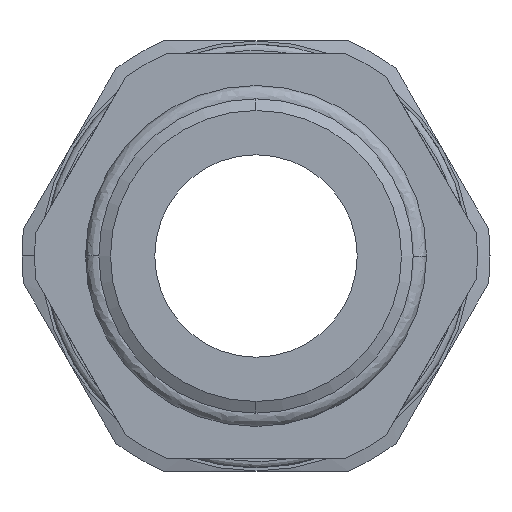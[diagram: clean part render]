
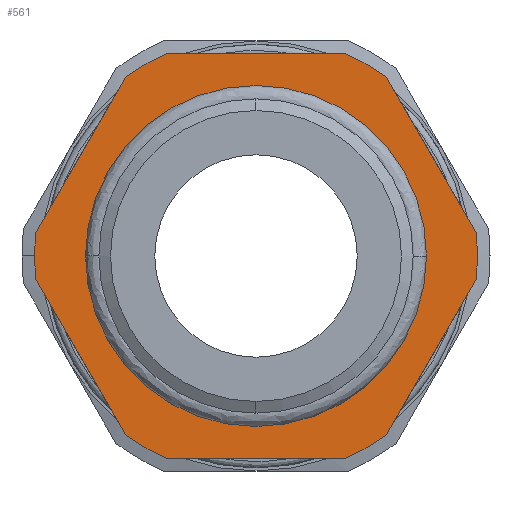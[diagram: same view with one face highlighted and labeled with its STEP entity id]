
A CAD part, front view. The second image highlights one B-rep face of the part: STEP entity #561.
In plain terms, the highlighted planar face has unit normal (0, -1, 0).
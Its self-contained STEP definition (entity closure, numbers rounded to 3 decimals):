
#49 = CARTESIAN_POINT ( 'NONE',  ( 0., 13.499, 0. ) ) ;
#54 = CARTESIAN_POINT ( 'NONE',  ( 13.48, 13.499, -0.004 ) ) ;
#113 = DIRECTION ( 'NONE',  ( -0.5, 0., -0.866 ) ) ;
#138 = VERTEX_POINT ( 'NONE', #2285 ) ;
#140 = FACE_OUTER_BOUND ( 'NONE', #3000, .T. ) ;
#176 = LINE ( 'NONE', #1535, #2300 ) ;
#185 = VERTEX_POINT ( 'NONE', #873 ) ;
#321 = CARTESIAN_POINT ( 'NONE',  ( 0., 13.499, 0. ) ) ;
#340 = DIRECTION ( 'NONE',  ( 0., 0., -1. ) ) ;
#349 = VECTOR ( 'NONE', #1999, 1000. ) ;
#391 = VERTEX_POINT ( 'NONE', #3594 ) ;
#521 = EDGE_CURVE ( 'NONE', #2996, #1112, #662, .T. ) ;
#561 = ADVANCED_FACE ( 'NONE', ( #934, #140 ), #2350, .T. ) ;
#567 = AXIS2_PLACEMENT_3D ( 'NONE', #2160, #2140, #4036 ) ;
#662 = LINE ( 'NONE', #1016, #349 ) ;
#696 = CARTESIAN_POINT ( 'NONE',  ( 0., 13.499, 0. ) ) ;
#706 = DIRECTION ( 'NONE',  ( 0., 0., -1. ) ) ;
#763 = ORIENTED_EDGE ( 'NONE', *, *, #3750, .T. ) ;
#852 = AXIS2_PLACEMENT_3D ( 'NONE', #4145, #4113, #4060 ) ;
#873 = CARTESIAN_POINT ( 'NONE',  ( -10.312, 13.499, 14.139 ) ) ;
#882 = LINE ( 'NONE', #2479, #1900 ) ;
#908 = VERTEX_POINT ( 'NONE', #1371 ) ;
#914 = VERTEX_POINT ( 'NONE', #2348 ) ;
#934 = FACE_BOUND ( 'NONE', #2758, .T. ) ;
#939 = DIRECTION ( 'NONE',  ( 0., -1., 0. ) ) ;
#952 = DIRECTION ( 'NONE',  ( 0., -1., 0. ) ) ;
#983 = CIRCLE ( 'NONE', #567, 13.48 ) ;
#992 = VERTEX_POINT ( 'NONE', #1346 ) ;
#1002 = ORIENTED_EDGE ( 'NONE', *, *, #3509, .T. ) ;
#1016 = CARTESIAN_POINT ( 'NONE',  ( 14.5, 13.499, 16. ) ) ;
#1060 = DIRECTION ( 'NONE',  ( 0., -1., 0. ) ) ;
#1092 = CARTESIAN_POINT ( 'NONE',  ( 14.5, 13.499, -16. ) ) ;
#1099 = EDGE_CURVE ( 'NONE', #3767, #3722, #176, .T. ) ;
#1112 = VERTEX_POINT ( 'NONE', #4118 ) ;
#1269 = AXIS2_PLACEMENT_3D ( 'NONE', #2915, #2770, #2661 ) ;
#1300 = EDGE_CURVE ( 'NONE', #138, #1453, #3926, .T. ) ;
#1308 = AXIS2_PLACEMENT_3D ( 'NONE', #1690, #1060, #3301 ) ;
#1309 = ORIENTED_EDGE ( 'NONE', *, *, #3834, .T. ) ;
#1346 = CARTESIAN_POINT ( 'NONE',  ( 17.401, 13.499, 1.861 ) ) ;
#1360 = VERTEX_POINT ( 'NONE', #3607 ) ;
#1371 = CARTESIAN_POINT ( 'NONE',  ( -10.312, 13.499, -14.139 ) ) ;
#1453 = VERTEX_POINT ( 'NONE', #54 ) ;
#1526 = DIRECTION ( 'NONE',  ( 0., -1., 0. ) ) ;
#1535 = CARTESIAN_POINT ( 'NONE',  ( 10.312, 13.499, -14.139 ) ) ;
#1619 = ORIENTED_EDGE ( 'NONE', *, *, #2012, .T. ) ;
#1626 = EDGE_CURVE ( 'NONE', #908, #1719, #3330, .T. ) ;
#1690 = CARTESIAN_POINT ( 'NONE',  ( 14.5, 13.499, 0. ) ) ;
#1719 = VERTEX_POINT ( 'NONE', #4110 ) ;
#1740 = DIRECTION ( 'NONE',  ( 1., 0., 0. ) ) ;
#1765 = VECTOR ( 'NONE', #2414, 1000. ) ;
#1789 = CARTESIAN_POINT ( 'NONE',  ( 0., 13.499, 0. ) ) ;
#1868 = DIRECTION ( 'NONE',  ( 0.5, 0., 0.866 ) ) ;
#1878 = ORIENTED_EDGE ( 'NONE', *, *, #2725, .T. ) ;
#1900 = VECTOR ( 'NONE', #2494, 1000. ) ;
#1999 = DIRECTION ( 'NONE',  ( -1., 0., 0. ) ) ;
#2012 = EDGE_CURVE ( 'NONE', #1112, #185, #2486, .T. ) ;
#2016 = ORIENTED_EDGE ( 'NONE', *, *, #2451, .T. ) ;
#2081 = CARTESIAN_POINT ( 'NONE',  ( 17.401, 13.499, 1.861 ) ) ;
#2102 = CARTESIAN_POINT ( 'NONE',  ( 10.312, 13.499, -14.139 ) ) ;
#2140 = DIRECTION ( 'NONE',  ( 0., -1., 0. ) ) ;
#2156 = ORIENTED_EDGE ( 'NONE', *, *, #521, .T. ) ;
#2160 = CARTESIAN_POINT ( 'NONE',  ( 0., 13.499, 0. ) ) ;
#2207 = CIRCLE ( 'NONE', #3007, 17.5 ) ;
#2228 = VERTEX_POINT ( 'NONE', #2465 ) ;
#2285 = CARTESIAN_POINT ( 'NONE',  ( -13.48, 13.499, 0.004 ) ) ;
#2293 = LINE ( 'NONE', #2081, #1765 ) ;
#2300 = VECTOR ( 'NONE', #1868, 1000. ) ;
#2333 = AXIS2_PLACEMENT_3D ( 'NONE', #1789, #2768, #4061 ) ;
#2348 = CARTESIAN_POINT ( 'NONE',  ( -17.401, 13.499, 1.861 ) ) ;
#2350 = PLANE ( 'NONE',  #1308 ) ;
#2358 = EDGE_CURVE ( 'NONE', #992, #1360, #2293, .T. ) ;
#2414 = DIRECTION ( 'NONE',  ( -0.5, 0., 0.866 ) ) ;
#2451 = EDGE_CURVE ( 'NONE', #914, #391, #3070, .T. ) ;
#2454 = CIRCLE ( 'NONE', #2333, 17.5 ) ;
#2465 = CARTESIAN_POINT ( 'NONE',  ( 7.089, 13.499, -16. ) ) ;
#2475 = EDGE_CURVE ( 'NONE', #2228, #3767, #2759, .T. ) ;
#2479 = CARTESIAN_POINT ( 'NONE',  ( -17.401, 13.499, -1.861 ) ) ;
#2486 = CIRCLE ( 'NONE', #1269, 17.5 ) ;
#2493 = AXIS2_PLACEMENT_3D ( 'NONE', #696, #952, #3768 ) ;
#2494 = DIRECTION ( 'NONE',  ( 0.5, 0., -0.866 ) ) ;
#2511 = ORIENTED_EDGE ( 'NONE', *, *, #1626, .T. ) ;
#2552 = LINE ( 'NONE', #3797, #3513 ) ;
#2631 = CARTESIAN_POINT ( 'NONE',  ( 7.089, 13.499, 16. ) ) ;
#2648 = ORIENTED_EDGE ( 'NONE', *, *, #2358, .T. ) ;
#2661 = DIRECTION ( 'NONE',  ( 0., 0., -1. ) ) ;
#2725 = EDGE_CURVE ( 'NONE', #3722, #992, #2207, .T. ) ;
#2746 = ORIENTED_EDGE ( 'NONE', *, *, #1300, .F. ) ;
#2758 = EDGE_LOOP ( 'NONE', ( #2746, #2841 ) ) ;
#2759 = CIRCLE ( 'NONE', #3536, 17.5 ) ;
#2768 = DIRECTION ( 'NONE',  ( 0., -1., 0. ) ) ;
#2770 = DIRECTION ( 'NONE',  ( 0., -1., 0. ) ) ;
#2808 = ORIENTED_EDGE ( 'NONE', *, *, #2475, .T. ) ;
#2841 = ORIENTED_EDGE ( 'NONE', *, *, #4148, .F. ) ;
#2874 = AXIS2_PLACEMENT_3D ( 'NONE', #49, #3989, #3969 ) ;
#2915 = CARTESIAN_POINT ( 'NONE',  ( 0., 13.499, 0. ) ) ;
#2958 = CARTESIAN_POINT ( 'NONE',  ( 0., 13.499, 0. ) ) ;
#2974 = EDGE_CURVE ( 'NONE', #391, #908, #882, .T. ) ;
#2996 = VERTEX_POINT ( 'NONE', #2631 ) ;
#3000 = EDGE_LOOP ( 'NONE', ( #1309, #2016, #3770, #2511, #763, #2808, #3170, #1878, #2648, #1002, #2156, #1619 ) ) ;
#3007 = AXIS2_PLACEMENT_3D ( 'NONE', #321, #1526, #340 ) ;
#3070 = CIRCLE ( 'NONE', #2874, 17.5 ) ;
#3170 = ORIENTED_EDGE ( 'NONE', *, *, #1099, .T. ) ;
#3260 = LINE ( 'NONE', #1092, #3703 ) ;
#3301 = DIRECTION ( 'NONE',  ( 0., 0., -1. ) ) ;
#3330 = CIRCLE ( 'NONE', #2493, 17.5 ) ;
#3377 = CARTESIAN_POINT ( 'NONE',  ( 17.401, 13.499, -1.861 ) ) ;
#3509 = EDGE_CURVE ( 'NONE', #1360, #2996, #2454, .T. ) ;
#3513 = VECTOR ( 'NONE', #113, 1000. ) ;
#3536 = AXIS2_PLACEMENT_3D ( 'NONE', #2958, #939, #706 ) ;
#3594 = CARTESIAN_POINT ( 'NONE',  ( -17.401, 13.499, -1.861 ) ) ;
#3607 = CARTESIAN_POINT ( 'NONE',  ( 10.312, 13.499, 14.139 ) ) ;
#3703 = VECTOR ( 'NONE', #1740, 1000. ) ;
#3722 = VERTEX_POINT ( 'NONE', #3377 ) ;
#3750 = EDGE_CURVE ( 'NONE', #1719, #2228, #3260, .T. ) ;
#3767 = VERTEX_POINT ( 'NONE', #2102 ) ;
#3768 = DIRECTION ( 'NONE',  ( 0., 0., -1. ) ) ;
#3770 = ORIENTED_EDGE ( 'NONE', *, *, #2974, .T. ) ;
#3797 = CARTESIAN_POINT ( 'NONE',  ( -10.312, 13.499, 14.139 ) ) ;
#3834 = EDGE_CURVE ( 'NONE', #185, #914, #2552, .T. ) ;
#3926 = CIRCLE ( 'NONE', #852, 13.48 ) ;
#3969 = DIRECTION ( 'NONE',  ( 0., 0., -1. ) ) ;
#3989 = DIRECTION ( 'NONE',  ( 0., -1., 0. ) ) ;
#4036 = DIRECTION ( 'NONE',  ( 0., 0., -1. ) ) ;
#4060 = DIRECTION ( 'NONE',  ( 0., 0., -1. ) ) ;
#4061 = DIRECTION ( 'NONE',  ( 0., 0., -1. ) ) ;
#4110 = CARTESIAN_POINT ( 'NONE',  ( -7.089, 13.499, -16. ) ) ;
#4113 = DIRECTION ( 'NONE',  ( 0., -1., 0. ) ) ;
#4118 = CARTESIAN_POINT ( 'NONE',  ( -7.089, 13.499, 16. ) ) ;
#4145 = CARTESIAN_POINT ( 'NONE',  ( 0., 13.499, 0. ) ) ;
#4148 = EDGE_CURVE ( 'NONE', #1453, #138, #983, .T. ) ;
